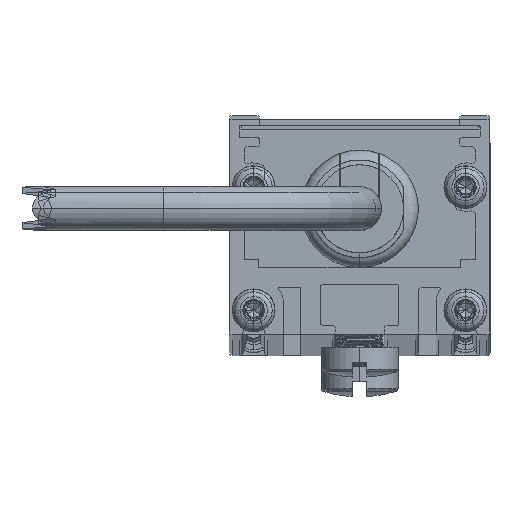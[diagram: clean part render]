
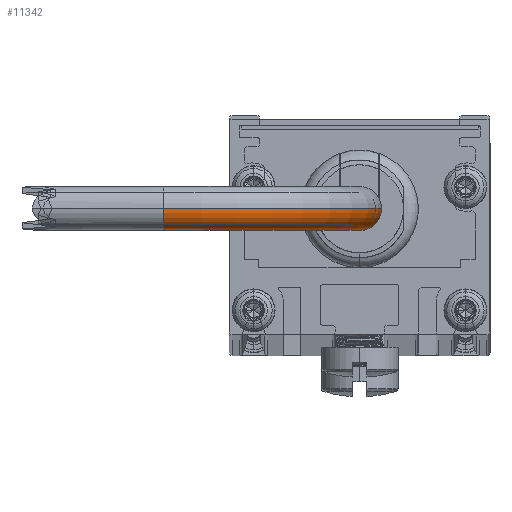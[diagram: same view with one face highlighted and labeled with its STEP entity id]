
A CAD part, top view. The second image highlights one B-rep face of the part: STEP entity #11342.
In plain terms, the highlighted toroidal (fillet/blend) face has major radius 25.4 mm and minor radius 2.845 mm.
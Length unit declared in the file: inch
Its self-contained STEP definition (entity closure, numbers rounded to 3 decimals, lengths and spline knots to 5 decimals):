
#57 = CIRCLE ( 'NONE', #13138, 0.112 ) ;
#1290 = AXIS2_PLACEMENT_3D ( 'NONE', #3554, #10716, #18539 ) ;
#1436 = DIRECTION ( 'NONE',  ( 0., -1., 0. ) ) ;
#1676 = DIRECTION ( 'NONE',  ( 1., 0., 0. ) ) ;
#1771 = ORIENTED_EDGE ( 'NONE', *, *, #11939, .T. ) ;
#3312 = CARTESIAN_POINT ( 'NONE',  ( 1., 0., -1.888 ) ) ;
#3554 = CARTESIAN_POINT ( 'NONE',  ( 1., 0., -1. ) ) ;
#3641 = CARTESIAN_POINT ( 'NONE',  ( 1., 0., -2. ) ) ;
#4503 = CARTESIAN_POINT ( 'NONE',  ( 0., 0., -1. ) ) ;
#5129 = VERTEX_POINT ( 'NONE', #3312 ) ;
#5399 = AXIS2_PLACEMENT_3D ( 'NONE', #3641, #18050, #13803 ) ;
#5662 = VERTEX_POINT ( 'NONE', #12607 ) ;
#5666 = DIRECTION ( 'NONE',  ( 1., 0., 0. ) ) ;
#6015 = EDGE_CURVE ( 'NONE', #12373, #5129, #12871, .T. ) ;
#6446 = CARTESIAN_POINT ( 'NONE',  ( 0.112, 0., -1. ) ) ;
#6788 = EDGE_LOOP ( 'NONE', ( #10646, #12940, #1771, #10331 ) ) ;
#7956 = CARTESIAN_POINT ( 'NONE',  ( 1., 0., -1. ) ) ;
#8831 = FACE_OUTER_BOUND ( 'NONE', #6788, .T. ) ;
#9327 = CIRCLE ( 'NONE', #5399, 0.112 ) ;
#10331 = ORIENTED_EDGE ( 'NONE', *, *, #6015, .F. ) ;
#10337 = DIRECTION ( 'NONE',  ( 0., 0., 1. ) ) ;
#10646 = ORIENTED_EDGE ( 'NONE', *, *, #10805, .F. ) ;
#10716 = DIRECTION ( 'NONE',  ( 0., -1., 0. ) ) ;
#10805 = EDGE_CURVE ( 'NONE', #5662, #12373, #57, .T. ) ;
#10868 = TOROIDAL_SURFACE ( 'NONE', #1290, 1., 0.112 ) ;
#11342 = ADVANCED_FACE ( 'NONE', ( #8831 ), #10868, .T. ) ;
#11608 = AXIS2_PLACEMENT_3D ( 'NONE', #7956, #18109, #18177 ) ;
#11939 = EDGE_CURVE ( 'NONE', #11993, #5129, #9327, .T. ) ;
#11993 = VERTEX_POINT ( 'NONE', #15687 ) ;
#12373 = VERTEX_POINT ( 'NONE', #6446 ) ;
#12607 = CARTESIAN_POINT ( 'NONE',  ( -0.112, 0., -1. ) ) ;
#12871 = CIRCLE ( 'NONE', #11608, 0.888 ) ;
#12940 = ORIENTED_EDGE ( 'NONE', *, *, #16552, .T. ) ;
#13138 = AXIS2_PLACEMENT_3D ( 'NONE', #4503, #10337, #1676 ) ;
#13178 = AXIS2_PLACEMENT_3D ( 'NONE', #14400, #1436, #5666 ) ;
#13803 = DIRECTION ( 'NONE',  ( 0., 0., 1. ) ) ;
#14400 = CARTESIAN_POINT ( 'NONE',  ( 1., 0., -1. ) ) ;
#15687 = CARTESIAN_POINT ( 'NONE',  ( 1., 0., -2.112 ) ) ;
#16022 = CIRCLE ( 'NONE', #13178, 1.112 ) ;
#16552 = EDGE_CURVE ( 'NONE', #5662, #11993, #16022, .T. ) ;
#18050 = DIRECTION ( 'NONE',  ( -1., 0., 0. ) ) ;
#18109 = DIRECTION ( 'NONE',  ( 0., -1., 0. ) ) ;
#18177 = DIRECTION ( 'NONE',  ( 1., 0., 0. ) ) ;
#18539 = DIRECTION ( 'NONE',  ( 0., 0., -1. ) ) ;
